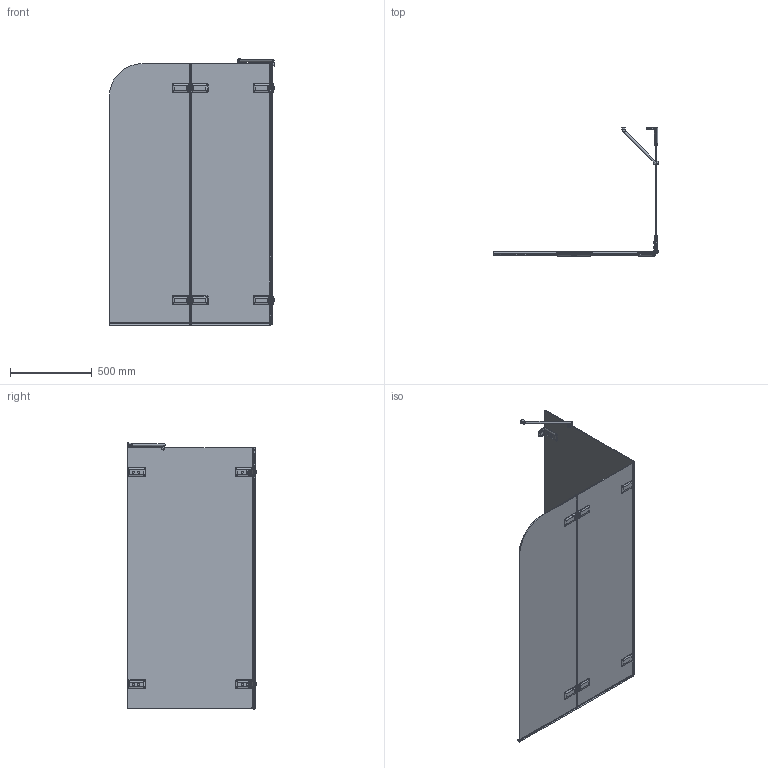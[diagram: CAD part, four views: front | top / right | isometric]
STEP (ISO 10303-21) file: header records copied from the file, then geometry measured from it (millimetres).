
FILE_DESCRIPTION(/* description */ (''),/* implementation_level */ '2;1');
FILE_NAME(/* name */ 'E:\Работа\Сергей\Душевые кабинки\! Работа\\X2\211621162116211621162116211621162116211621162116211621162116\X0\\TREND PEARL GV-863B\TREND PEARL GV-863B правая модель\TREND PEARL GV-863B ПРАВАЯ-3D.stp',/* time_stamp */ '2018-03-31T10:38:18+03:00',/* author */ ('PC'),/* organization */ (''),/* preprocessor_version */ 'ST-DEVELOPER v15.2',/* originating_system */ 'Autodesk Inventor 2014',/* authorisation */ '');
FILE_SCHEMA (('AUTOMOTIVE_DESIGN { 1 0 10303 214 3 1 1 }'));
Products named in the file (1): TREND PEARL GV-863B ПРАВАЯ-3
D
Bounding box: 1012.68 x 790.17 x 1633.89 mm (x, y, z)
Volume: 17787302.5 mm3; surface area: 5974397.1 mm2
Topology: 9 solids, 9 shells, 1985 faces, 5432 edges, 3459 vertices
Faces by surface type: plane 1156, cylinder 516, bspline 222, cone 42, torus 27, sphere 22
Full cylindrical faces by diameter (mm): 6 x8, 9 x12, 12 x1, 13 x8, 15 x1, 20 x2, 26 x1, 40 x2
Entity records: 95150 total; most frequent: CARTESIAN_POINT 44198, ORIENTED_EDGE 10518, DIRECTION 9817, EDGE_CURVE 5259, VERTEX_POINT 3429, AXIS2_PLACEMENT_3D 3350, LINE 3117, VECTOR 3117
